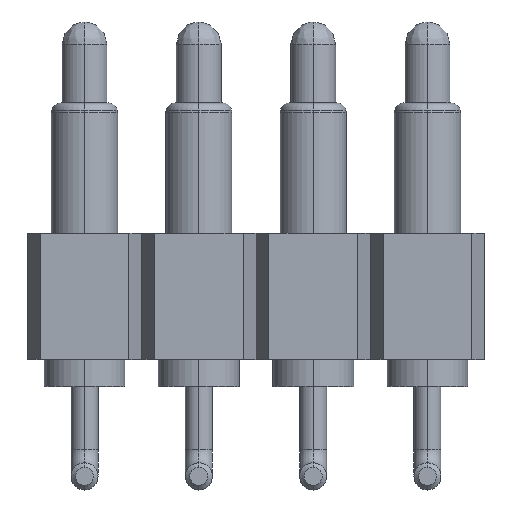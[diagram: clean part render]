
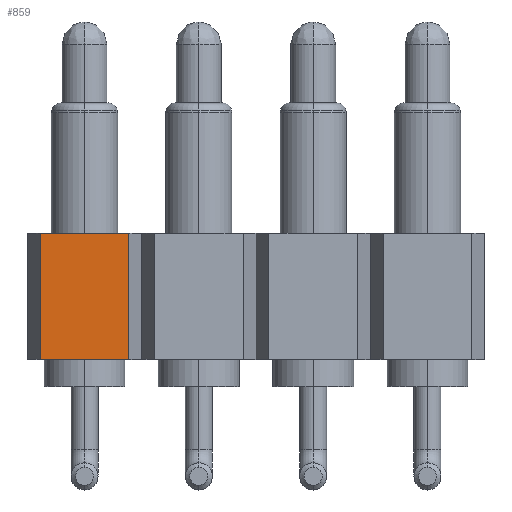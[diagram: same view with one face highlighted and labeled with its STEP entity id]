
A CAD part, top view. The second image highlights one B-rep face of the part: STEP entity #859.
In plain terms, the highlighted planar face has unit normal (0, 0, 1).
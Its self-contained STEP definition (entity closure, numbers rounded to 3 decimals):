
#141=DIRECTION('',(1.,0.,0.));
#142=VECTOR('',#141,1.967);
#143=CARTESIAN_POINT('',(-4.794,0.,1.27));
#144=LINE('',#143,#142);
#197=DIRECTION('',(1.,0.,0.));
#198=VECTOR('',#197,1.967);
#199=CARTESIAN_POINT('',(-4.794,2.8,1.27));
#200=LINE('',#199,#198);
#321=DIRECTION('',(0.,1.,0.));
#322=VECTOR('',#321,2.8);
#323=CARTESIAN_POINT('',(-2.826,0.,1.27));
#324=LINE('',#323,#322);
#325=DIRECTION('',(0.,1.,0.));
#326=VECTOR('',#325,2.8);
#327=CARTESIAN_POINT('',(-4.794,0.,1.27));
#328=LINE('',#327,#326);
#441=CARTESIAN_POINT('',(-2.826,0.,1.27));
#443=VERTEX_POINT('',#441);
#491=CARTESIAN_POINT('',(-4.794,0.,1.27));
#492=VERTEX_POINT('',#491);
#509=CARTESIAN_POINT('',(-2.826,2.8,1.27));
#511=VERTEX_POINT('',#509);
#559=CARTESIAN_POINT('',(-4.794,2.8,1.27));
#560=VERTEX_POINT('',#559);
#847=CARTESIAN_POINT('',(-4.794,0.,1.27));
#848=DIRECTION('',(0.,0.,1.));
#849=DIRECTION('',(1.,0.,0.));
#850=AXIS2_PLACEMENT_3D('',#847,#848,#849);
#851=PLANE('',#850);
#852=ORIENTED_EDGE('',*,*,#616,.F.);
#854=ORIENTED_EDGE('',*,*,#853,.T.);
#855=ORIENTED_EDGE('',*,*,#680,.T.);
#856=ORIENTED_EDGE('',*,*,#839,.F.);
#857=EDGE_LOOP('',(#852,#854,#855,#856));
#858=FACE_OUTER_BOUND('',#857,.F.);
#859=ADVANCED_FACE('',(#858),#851,.T.);
#616=EDGE_CURVE('',#492,#443,#144,.T.);
#680=EDGE_CURVE('',#560,#511,#200,.T.);
#839=EDGE_CURVE('',#443,#511,#324,.T.);
#853=EDGE_CURVE('',#492,#560,#328,.T.);
